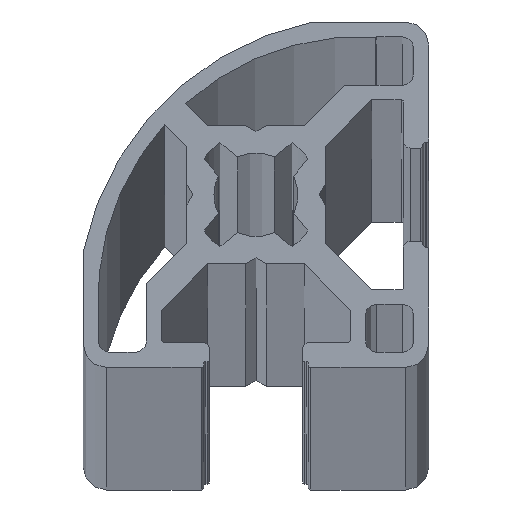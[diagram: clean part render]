
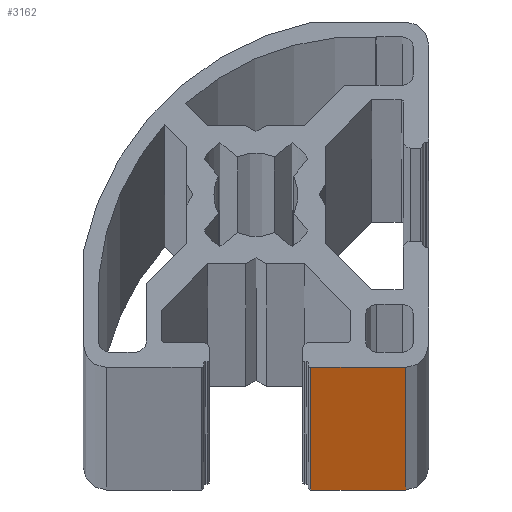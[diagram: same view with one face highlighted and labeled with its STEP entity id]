
A CAD part, top view. The second image highlights one B-rep face of the part: STEP entity #3162.
In plain terms, the highlighted planar face has unit normal (0, -1, 0).
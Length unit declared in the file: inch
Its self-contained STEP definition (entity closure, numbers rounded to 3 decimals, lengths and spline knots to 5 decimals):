
#77 = EDGE_CURVE ( 'NONE', #2399, #2330, #3255, .T. ) ;
#78 = EDGE_CURVE ( 'NONE', #2234, #2474, #3637, .T. ) ;
#87 = EDGE_CURVE ( 'NONE', #2474, #2330, #3767, .T. ) ;
#93 = EDGE_CURVE ( 'NONE', #2234, #2399, #3706, .T. ) ;
#452 = AXIS2_PLACEMENT_3D ( 'NONE', #1682, #1684, #1797 ) ;
#651 = DIRECTION ( 'NONE',  ( 1., 0., 0. ) ) ;
#674 = DIRECTION ( 'NONE',  ( 1., 0., 0. ) ) ;
#679 = CARTESIAN_POINT ( 'NONE',  ( 0.18701, -0.59055, -120.07874 ) ) ;
#844 = DIRECTION ( 'NONE',  ( 0., 0., -1. ) ) ;
#846 = CARTESIAN_POINT ( 'NONE',  ( 0.18701, -0.59055, 120.07874 ) ) ;
#887 = DIRECTION ( 'NONE',  ( 0., 0., -1. ) ) ;
#914 = CARTESIAN_POINT ( 'NONE',  ( 0.51181, -0.59055, 120.07874 ) ) ;
#990 = CARTESIAN_POINT ( 'NONE',  ( 0.18701, -0.59055, 120.07874 ) ) ;
#1236 = CARTESIAN_POINT ( 'NONE',  ( 0.51181, -0.59055, 120.07874 ) ) ;
#1271 = CARTESIAN_POINT ( 'NONE',  ( 0.51181, -0.59055, -120.07874 ) ) ;
#1303 = CARTESIAN_POINT ( 'NONE',  ( 0.18701, -0.59055, -120.07874 ) ) ;
#1366 = CARTESIAN_POINT ( 'NONE',  ( 0.18701, -0.59055, 120.07874 ) ) ;
#1655 = PLANE ( 'NONE',  #452 ) ;
#1682 = CARTESIAN_POINT ( 'NONE',  ( 0.18701, -0.59055, 120.07874 ) ) ;
#1684 = DIRECTION ( 'NONE',  ( 0., 1., 0. ) ) ;
#1797 = DIRECTION ( 'NONE',  ( 0., 0., 1. ) ) ;
#1947 = FACE_OUTER_BOUND ( 'NONE', #2828, .T. ) ;
#2234 = VERTEX_POINT ( 'NONE', #1366 ) ;
#2330 = VERTEX_POINT ( 'NONE', #1271 ) ;
#2399 = VERTEX_POINT ( 'NONE', #1303 ) ;
#2474 = VERTEX_POINT ( 'NONE', #1236 ) ;
#2613 = ORIENTED_EDGE ( 'NONE', *, *, #78, .F. ) ;
#2701 = ORIENTED_EDGE ( 'NONE', *, *, #93, .T. ) ;
#2828 = EDGE_LOOP ( 'NONE', ( #3031, #2855, #2613, #2701 ) ) ;
#2855 = ORIENTED_EDGE ( 'NONE', *, *, #87, .F. ) ;
#3031 = ORIENTED_EDGE ( 'NONE', *, *, #77, .T. ) ;
#3162 = ADVANCED_FACE ( 'NONE', ( #1947 ), #1655, .F. ) ;
#3255 = LINE ( 'NONE', #679, #3422 ) ;
#3422 = VECTOR ( 'NONE', #674, 39.37008 ) ;
#3423 = VECTOR ( 'NONE', #651, 39.37008 ) ;
#3587 = VECTOR ( 'NONE', #887, 39.37008 ) ;
#3637 = LINE ( 'NONE', #990, #3423 ) ;
#3706 = LINE ( 'NONE', #846, #3737 ) ;
#3737 = VECTOR ( 'NONE', #844, 39.37008 ) ;
#3767 = LINE ( 'NONE', #914, #3587 ) ;
